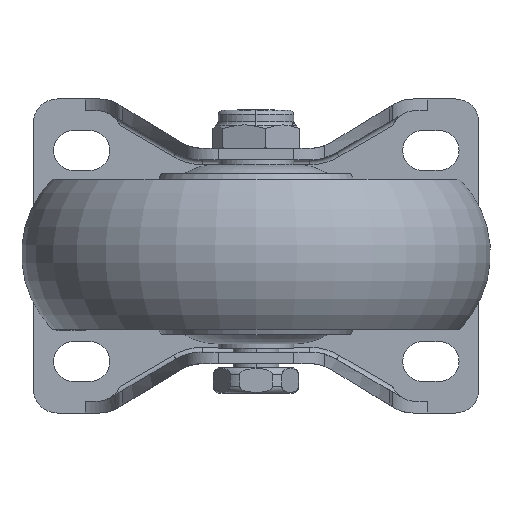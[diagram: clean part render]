
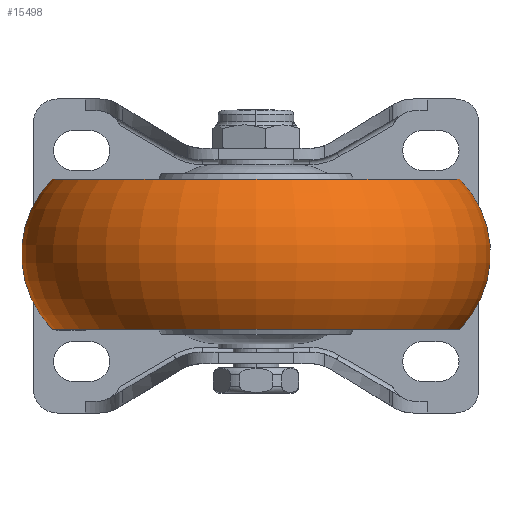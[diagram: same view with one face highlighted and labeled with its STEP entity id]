
A CAD part, front view. The second image highlights one B-rep face of the part: STEP entity #15498.
In plain terms, the highlighted toroidal (fillet/blend) face has major radius 27.058 mm and minor radius 22.942 mm.
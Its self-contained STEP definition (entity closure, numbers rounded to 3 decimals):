
#15326 = ORIENTED_EDGE ( 'NONE', *, *, #15328, .F. ) ;
#15328 = EDGE_CURVE ( 'NONE', #15329, #15660, #22558, .T. ) ;
#15329 = VERTEX_POINT ( 'NONE', #22553 ) ;
#15330 = ORIENTED_EDGE ( 'NONE', *, *, #15331, .F. ) ;
#15331 = EDGE_CURVE ( 'NONE', #15655, #15329, #22552, .T. ) ;
#15498 = ADVANCED_FACE ( 'NONE', ( #22677 ), #22676, .T. ) ;
#15501 = EDGE_LOOP ( 'NONE', ( #15503, #15657, #15326, #15330 ) ) ;
#15503 = ORIENTED_EDGE ( 'NONE', *, *, #15653, .T. ) ;
#15653 = EDGE_CURVE ( 'NONE', #15655, #15656, #22935, .T. ) ;
#15655 = VERTEX_POINT ( 'NONE', #22930 ) ;
#15656 = VERTEX_POINT ( 'NONE', #22929 ) ;
#15657 = ORIENTED_EDGE ( 'NONE', *, *, #15659, .T. ) ;
#15659 = EDGE_CURVE ( 'NONE', #15656, #15660, #22928, .T. ) ;
#15660 = VERTEX_POINT ( 'NONE', #22923 ) ;
#22548 = DIRECTION ( 'NONE',  ( -1., 0., 0. ) ) ;
#22549 = DIRECTION ( 'NONE',  ( 0., 0., -1. ) ) ;
#22550 = CARTESIAN_POINT ( 'NONE',  ( 27.058, 0., 0. ) ) ;
#22551 = AXIS2_PLACEMENT_3D ( 'NONE', #22550, #22549, #22548 ) ;
#22552 = CIRCLE ( 'NONE', #22551, 22.942 ) ;
#22553 = CARTESIAN_POINT ( 'NONE',  ( 43.5, -16., 0. ) ) ;
#22554 = DIRECTION ( 'NONE',  ( 1., 0., 0. ) ) ;
#22555 = DIRECTION ( 'NONE',  ( 0., -1., 0. ) ) ;
#22556 = CARTESIAN_POINT ( 'NONE',  ( 0., -16., 0. ) ) ;
#22557 = AXIS2_PLACEMENT_3D ( 'NONE', #22556, #22555, #22554 ) ;
#22558 = CIRCLE ( 'NONE', #22557, 43.5 ) ;
#22675 = AXIS2_PLACEMENT_3D ( 'NONE', #22737, #22736, #22735 ) ;
#22676 = TOROIDAL_SURFACE ( 'NONE', #22675, 27.058, 22.942 ) ;
#22677 = FACE_OUTER_BOUND ( 'NONE', #15501, .T. ) ;
#22735 = DIRECTION ( 'NONE',  ( 1., 0., 0. ) ) ;
#22736 = DIRECTION ( 'NONE',  ( 0., -1., 0. ) ) ;
#22737 = CARTESIAN_POINT ( 'NONE',  ( 0., 0., 0. ) ) ;
#22923 = CARTESIAN_POINT ( 'NONE',  ( -43.5, -16., 0. ) ) ;
#22924 = DIRECTION ( 'NONE',  ( 1., 0., 0. ) ) ;
#22925 = DIRECTION ( 'NONE',  ( 0., 0., 1. ) ) ;
#22926 = CARTESIAN_POINT ( 'NONE',  ( -27.058, 0., 0. ) ) ;
#22927 = AXIS2_PLACEMENT_3D ( 'NONE', #22926, #22925, #22924 ) ;
#22928 = CIRCLE ( 'NONE', #22927, 22.942 ) ;
#22929 = CARTESIAN_POINT ( 'NONE',  ( -43.5, 16., 0. ) ) ;
#22930 = CARTESIAN_POINT ( 'NONE',  ( 43.5, 16., 0. ) ) ;
#22931 = DIRECTION ( 'NONE',  ( 1., 0., 0. ) ) ;
#22932 = DIRECTION ( 'NONE',  ( 0., -1., 0. ) ) ;
#22933 = CARTESIAN_POINT ( 'NONE',  ( 0., 16., 0. ) ) ;
#22934 = AXIS2_PLACEMENT_3D ( 'NONE', #22933, #22932, #22931 ) ;
#22935 = CIRCLE ( 'NONE', #22934, 43.5 ) ;
